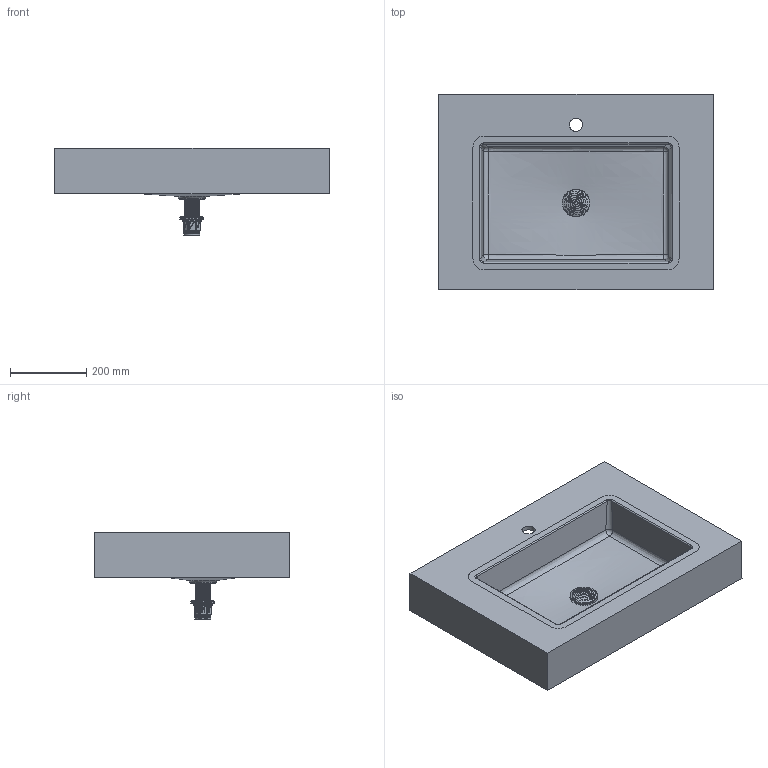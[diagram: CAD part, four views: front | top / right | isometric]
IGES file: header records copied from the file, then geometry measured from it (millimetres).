
Start section: Data from Parasolid IGES Translator 19.0.9, Copyright(c) 2006 Siemens PL M Software. All Rights Reserved.
Global section: file name: noorth-top-H 12 D 51,3 W 72_6547.igs; native system: By Siemens PLM Incorporated; preprocessor: XPlus GENERIC/IGES 19.0.9; author: Noname; organization: Noname; date: 20200603.090330; units: metre
Bounding box: 720 x 512 x 229.51 mm (x, y, z)
Volume: 8411709.7 mm3; surface area: 1519498.8 mm2
Topology: 2 solids, 2 shells, 11703 faces, 35054 edges, 34968 vertices
Faces by surface type: extrusion 11618, bspline 41, plane 29, cylinder 14, cone 1
Full cylindrical faces by diameter (mm): 34.9 x1, 45 x1
